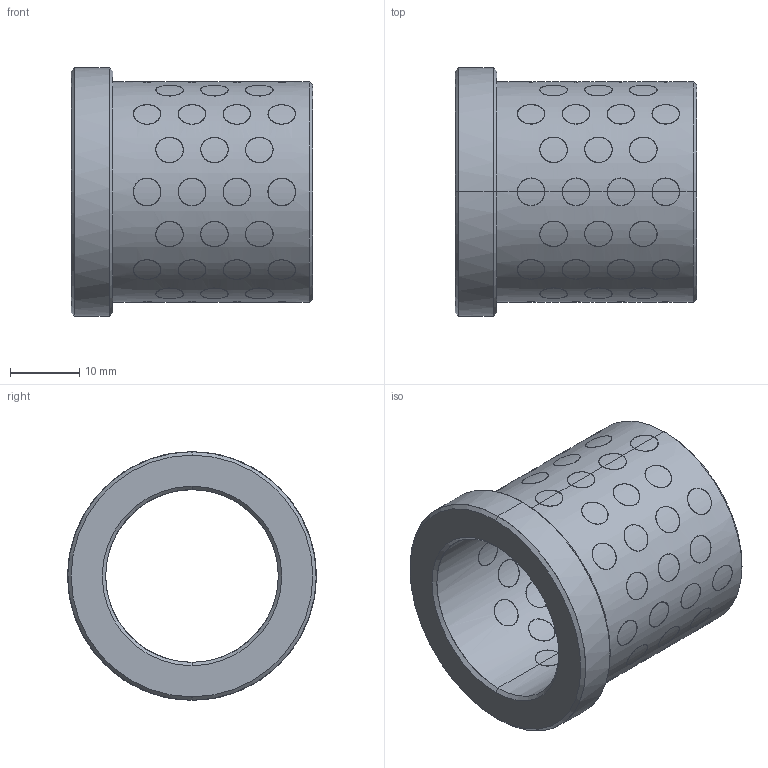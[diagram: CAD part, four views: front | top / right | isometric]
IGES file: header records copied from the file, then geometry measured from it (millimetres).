
Start section: START RECORD GO HERE.
Global section: file name: G4012535.igs; native system: DASSAULT SYSTEMES CATIA V5 R20 - www.3ds.com; preprocessor: CATIA Version 5 Release 20 ; author: r.borello; organization: CFTORINO; date: 20190624.143248; units: millimetre
Bounding box: 35 x 36 x 36 mm (x, y, z)
Surface area: 12139.5 mm2 (no closed solid volume)
Topology: 0 solids, 0 shells, 371 faces, 1612 edges, 1612 vertices
Faces by surface type: revolution 368, plane 3
